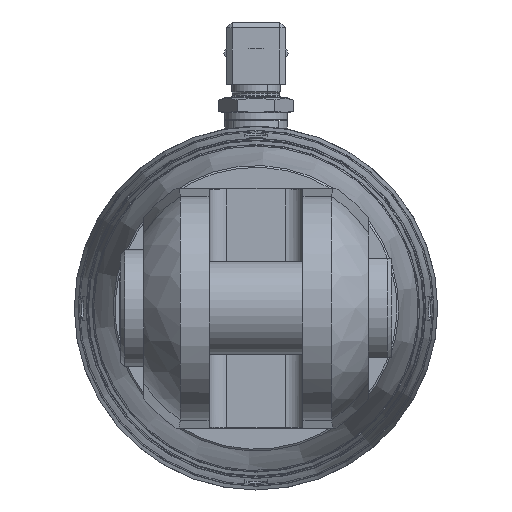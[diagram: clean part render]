
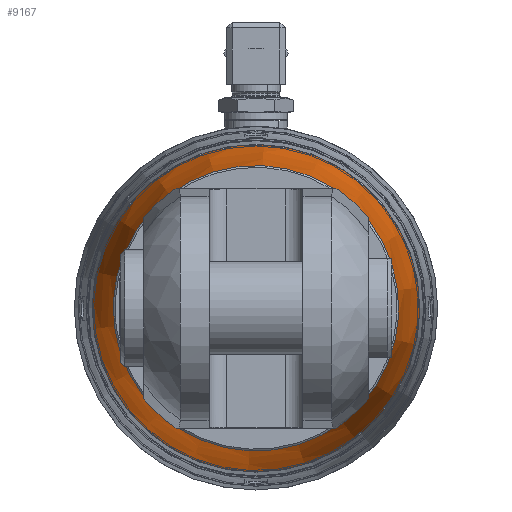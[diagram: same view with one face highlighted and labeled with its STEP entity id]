
A CAD part, left-side view. The second image highlights one B-rep face of the part: STEP entity #9167.
In plain terms, the highlighted conical face has half-angle 10 degrees and reference radius 52.073 mm.
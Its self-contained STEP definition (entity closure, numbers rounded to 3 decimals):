
#146=CONICAL_SURFACE('',#10130,52.073,0.175);
#1178=LINE('',#16563,#1762);
#1762=VECTOR('',#12588,52.073);
#2824=FACE_OUTER_BOUND('',#3370,.T.);
#3370=EDGE_LOOP('',(#8519,#8520,#8521,#8522,#8523,#8524));
#3812=CIRCLE('',#10128,55.601);
#3813=CIRCLE('',#10129,55.601);
#3814=CIRCLE('',#10131,48.545);
#3815=CIRCLE('',#10132,48.545);
#4711=VERTEX_POINT('',#16553);
#4712=VERTEX_POINT('',#16554);
#4713=VERTEX_POINT('',#16559);
#4714=VERTEX_POINT('',#16560);
#5987=EDGE_CURVE('',#4711,#4712,#3812,.T.);
#5988=EDGE_CURVE('',#4712,#4711,#3813,.T.);
#5990=EDGE_CURVE('',#4713,#4714,#3814,.T.);
#5991=EDGE_CURVE('',#4714,#4713,#3815,.T.);
#5992=EDGE_CURVE('',#4714,#4712,#1178,.T.);
#8519=ORIENTED_EDGE('',*,*,#5990,.F.);
#8520=ORIENTED_EDGE('',*,*,#5991,.F.);
#8521=ORIENTED_EDGE('',*,*,#5992,.T.);
#8522=ORIENTED_EDGE('',*,*,#5987,.F.);
#8523=ORIENTED_EDGE('',*,*,#5988,.F.);
#8524=ORIENTED_EDGE('',*,*,#5992,.F.);
#9167=ADVANCED_FACE('',(#2824),#146,.T.);
#10128=AXIS2_PLACEMENT_3D('',#16555,#12577,#12578);
#10129=AXIS2_PLACEMENT_3D('',#16556,#12579,#12580);
#10130=AXIS2_PLACEMENT_3D('',#16558,#12582,#12583);
#10131=AXIS2_PLACEMENT_3D('',#16561,#12584,#12585);
#10132=AXIS2_PLACEMENT_3D('',#16562,#12586,#12587);
#12577=DIRECTION('center_axis',(1.,0.,0.));
#12578=DIRECTION('ref_axis',(0.,0.605,0.796));
#12579=DIRECTION('center_axis',(1.,0.,0.));
#12580=DIRECTION('ref_axis',(0.,0.605,0.796));
#12582=DIRECTION('center_axis',(1.,0.,0.));
#12583=DIRECTION('ref_axis',(0.,-0.605,-0.796));
#12584=DIRECTION('center_axis',(-1.,0.,0.));
#12585=DIRECTION('ref_axis',(0.,0.605,0.796));
#12586=DIRECTION('center_axis',(-1.,0.,0.));
#12587=DIRECTION('ref_axis',(0.,0.605,0.796));
#12588=DIRECTION('',(0.985,0.105,0.138));
#16553=CARTESIAN_POINT('',(-1408.142,-33.658,-44.256));
#16554=CARTESIAN_POINT('',(-1408.142,33.658,44.256));
#16555=CARTESIAN_POINT('Origin',(-1408.142,0.,
0.));
#16556=CARTESIAN_POINT('Origin',(-1408.142,0.,
0.));
#16558=CARTESIAN_POINT('Origin',(-1428.15,0.,0.));
#16559=CARTESIAN_POINT('',(-1448.158,-29.387,-38.64));
#16560=CARTESIAN_POINT('',(-1448.158,29.387,38.64));
#16561=CARTESIAN_POINT('Origin',(-1448.158,0.,
0.));
#16562=CARTESIAN_POINT('Origin',(-1448.158,0.,
0.));
#16563=CARTESIAN_POINT('',(-1428.15,31.522,41.448));
